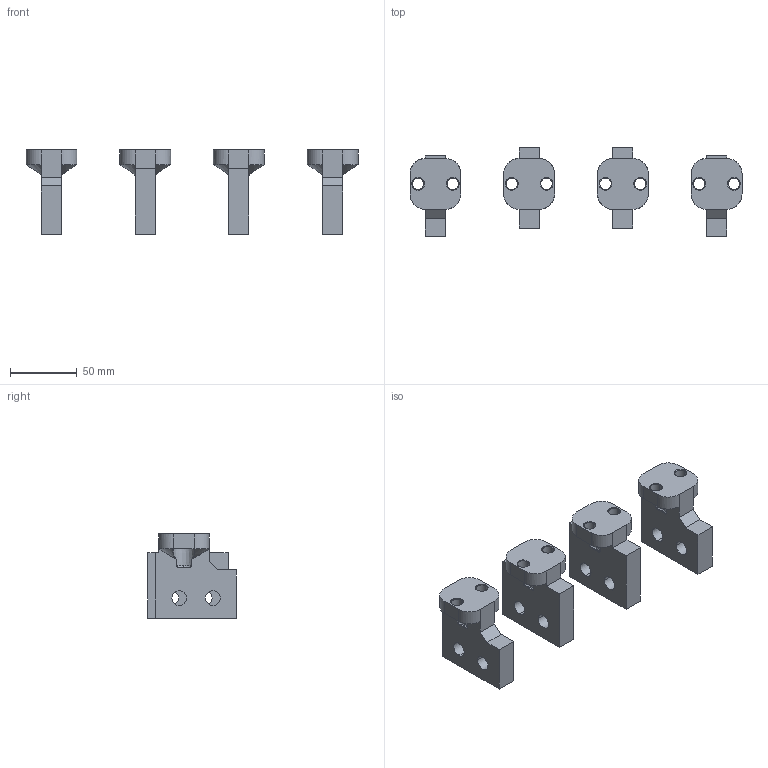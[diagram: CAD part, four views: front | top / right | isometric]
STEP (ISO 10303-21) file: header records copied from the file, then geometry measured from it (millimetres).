
FILE_DESCRIPTION (( 'STEP AP203' ), '1' );
FILE_NAME ('Âûâîäû âåðòèê. íèæíèå äëÿ âûêàòíîãî íà 1250-1600À 4P.STEP', '2024-06-25T10:13:00', ( '' ), ( '' ), 'SwSTEP 2.0', 'SolidWorks 2018', '' );
FILE_SCHEMA (( 'CONFIG_CONTROL_DESIGN' ));
Length unit declared in the file: millimetre
Products named in the file (1): Âûâîäû âåðòèê. íèæíèå äëÿ âûêàòíîãî íà 1250-1600À 4P
Bounding box: 248 x 66 x 63 mm (x, y, z)
Volume: 219973.4 mm3; surface area: 53238.5 mm2
Topology: 4 solids, 4 shells, 256 faces, 654 edges, 406 vertices
Faces by surface type: bspline 94, plane 82, cylinder 56, cone 24
Entity records: 21369 total; most frequent: CARTESIAN_POINT 15671, ORIENTED_EDGE 1308, DIRECTION 966, EDGE_CURVE 654, VERTEX_POINT 406, AXIS2_PLACEMENT_3D 355, EDGE_LOOP 288, LINE 256
